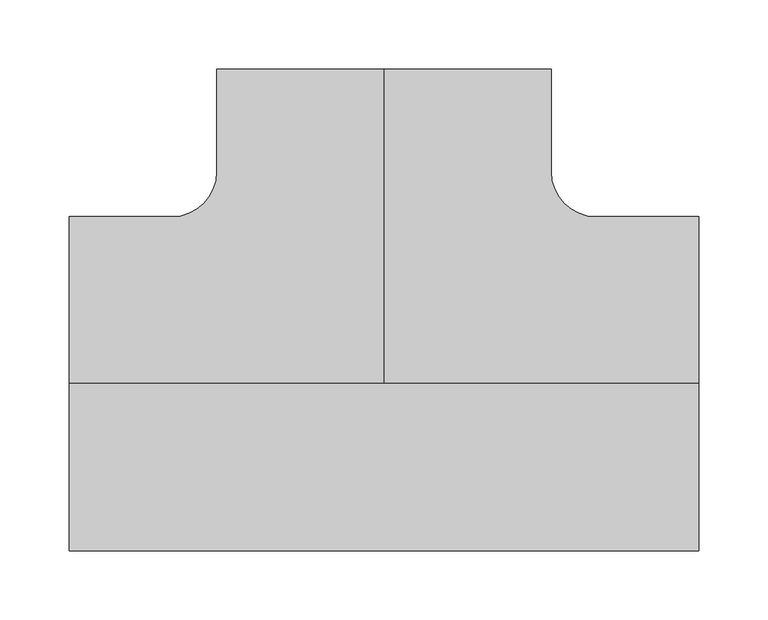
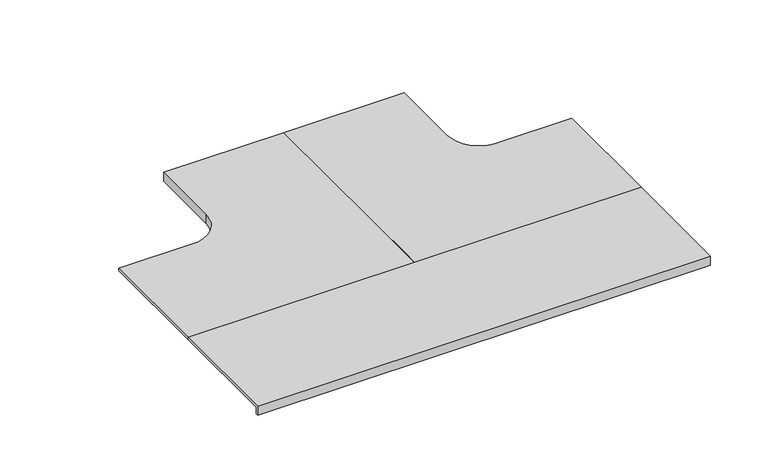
"""IFC4 building model written with IfcOpenShell, lengths in millimetres: cable carrier fitting geometry, CCT_Hyperline_FBTR-TEE-CVR Крышка на ответвитель Т-образный пластиковый : Крышка на ответвитель Т-образный пластиковый."""

import ifcopenshell
import ifcopenshell.guid

model = None  # the IFC model being written
_history = None  # IfcOwnerHistory: only IFC2X3 demands one
_inside = {}  # id of a spatial element -> (the spatial element, [elements in it])
_under = {}  # id of a project, library or spatial element -> (it, [spatial elements below it])
_declared = {}  # id of a project -> (the project, [libraries it declares])
_typed = {}  # id of a type object -> (the type object, [elements of that type])
_made_of = {}  # id of a material, layer set ... -> (it, [elements and type objects made of it])


def new_model(schema):
    """Start an empty IFC model of exactly this schema.

    Asked for "IFC4X3", IfcOpenShell would pick the latest addendum, in which some entities
    have other attributes; the version numbers below select the first issue.
    IFC2X3 requires an IfcOwnerHistory on every rooted entity: one is made here for all.
    """
    global model, _history
    if schema == "IFC4X3":
        model = ifcopenshell.file(schema_version=(4, 3, 0, 0))
    else:
        model = ifcopenshell.file(schema=schema)
    _inside.clear()
    _under.clear()
    _declared.clear()
    _typed.clear()
    _made_of.clear()
    _history = None
    if model.schema == "IFC2X3":
        org = make("IfcOrganization", Name="unknown")
        user = make(
            "IfcPersonAndOrganization",
            ThePerson=make("IfcPerson", FamilyName="unknown"),
            TheOrganization=org,
        )
        app = make(
            "IfcApplication",
            ApplicationDeveloper=org,
            Version="unknown",
            ApplicationFullName="unknown",
            ApplicationIdentifier="unknown",
        )
        _history = make(
            "IfcOwnerHistory",
            OwningUser=user,
            OwningApplication=app,
            ChangeAction="ADDED",
            CreationDate=0,
        )
    return model


def make(cls, **values):
    """One entity of the class cls with the attributes given. An attribute that is None is left unset."""
    return model.create_entity(
        cls, **{name: value for name, value in values.items() if value is not None}
    )


def rooted(cls, **values):
    """An entity with a GlobalId (a new one), such as an element, a storey or a relation."""
    return make(cls, GlobalId=ifcopenshell.guid.new(), OwnerHistory=_history, **values)


def si_unit(unit_type, name, prefix=None):
    """IfcSIUnit, for example si_unit("LENGTHUNIT", "METRE", prefix="MILLI")."""
    return make("IfcSIUnit", UnitType=unit_type, Prefix=prefix, Name=name)


def assignment(units):
    """IfcUnitAssignment: the units of a project."""
    return None if units is None else make("IfcUnitAssignment", Units=units)


def point(xyz):
    """IfcCartesianPoint."""
    return None if xyz is None else make("IfcCartesianPoint", Coordinates=xyz)


def direction(xyz):
    """IfcDirection."""
    return None if xyz is None else make("IfcDirection", DirectionRatios=xyz)


def frame(location, z_axis=None, x_axis=None):
    """IfcAxis2Placement3D, a coordinate frame: its origin and axes. An axis left out is left unset."""
    return make(
        "IfcAxis2Placement3D",
        Location=point(location),
        Axis=direction(z_axis),
        RefDirection=direction(x_axis),
    )


def origin():
    """The frame at (0, 0, 0) with its axes left unset."""
    return frame((0.0, 0.0, 0.0))


def place(relative_to, where):
    """IfcLocalPlacement: puts the frame where relative to a parent placement (None: the world)."""
    return make(
        "IfcLocalPlacement", PlacementRelTo=relative_to, RelativePlacement=where
    )


def context(
    kind, dimensions, precision=None, world=None, true_north=None, identifier=None
):
    """IfcGeometricRepresentationContext, for example the 3D "Model" context."""
    return make(
        "IfcGeometricRepresentationContext",
        ContextIdentifier=identifier,
        ContextType=kind,
        CoordinateSpaceDimension=dimensions,
        Precision=precision,
        WorldCoordinateSystem=world,
        TrueNorth=true_north,
    )


def project(units=None, contexts=None):
    """IfcProject with its units and contexts."""
    return rooted(
        "IfcProject",
        Name="project",
        RepresentationContexts=contexts,
        UnitsInContext=assignment(units),
    )


def spatial(cls, under=None, at=None, **own):
    """A site, building, storey or space (cls), placed at a placement, below another one or the project."""
    s = rooted(cls, ObjectPlacement=at, **own)
    if under is not None:
        _under.setdefault(under.id(), (under, []))[1].append(s)
    return s


def polyline(points):
    """IfcPolyline through the points."""
    return make("IfcPolyline", Points=[point(p) for p in points])


def circle_curve(where, radius):
    """IfcCircle in the frame where."""
    return make("IfcCircle", Position=where, Radius=radius)


def outline(outer, holes=None, kind="AREA"):
    """IfcArbitraryClosedProfileDef: a profile drawn as a closed curve; with holes, ...WithVoids."""
    if holes is None:
        return make("IfcArbitraryClosedProfileDef", ProfileType=kind, OuterCurve=outer)
    return make(
        "IfcArbitraryProfileDefWithVoids",
        ProfileType=kind,
        OuterCurve=outer,
        InnerCurves=holes,
    )


def extrude(swept, where, along, depth):
    """IfcExtrudedAreaSolid: the profile swept, set in the frame where, extruded along a direction by depth."""
    return make(
        "IfcExtrudedAreaSolid",
        SweptArea=swept,
        Position=where,
        ExtrudedDirection=direction(along),
        Depth=depth,
    )


def shape(context_of_items, identifier, shape_type, items):
    """IfcShapeRepresentation: the items that make up one representation, for example the "Body"."""
    return make(
        "IfcShapeRepresentation",
        ContextOfItems=context_of_items,
        RepresentationIdentifier=identifier,
        RepresentationType=shape_type,
        Items=items,
    )


def source(mapping_origin, context_of_items, identifier, shape_type, items):
    """IfcRepresentationMap: a shape defined once, which mapped items show again and again."""
    return make(
        "IfcRepresentationMap",
        MappingOrigin=mapping_origin,
        MappedRepresentation=shape(context_of_items, identifier, shape_type, items),
    )


def transform(
    local_origin,
    x_axis=None,
    y_axis=None,
    z_axis=None,
    scale=None,
    scale2=None,
    scale3=None,
    uniform=True,
):
    """IfcCartesianTransformationOperator3D, or its non-uniform kind. x_axis, y_axis, z_axis: its Axis1, 2, 3."""
    if uniform:
        return make(
            "IfcCartesianTransformationOperator3D",
            Axis1=direction(x_axis),
            Axis2=direction(y_axis),
            LocalOrigin=point(local_origin),
            Scale=scale,
            Axis3=direction(z_axis),
        )
    return make(
        "IfcCartesianTransformationOperator3DnonUniform",
        Axis1=direction(x_axis),
        Axis2=direction(y_axis),
        LocalOrigin=point(local_origin),
        Scale=scale,
        Axis3=direction(z_axis),
        Scale2=scale2,
        Scale3=scale3,
    )


def mapped(mapping_source, mapping_target):
    """IfcMappedItem: shows the shape of a source again, moved by a transform."""
    return make(
        "IfcMappedItem", MappingSource=mapping_source, MappingTarget=mapping_target
    )


def made_of(thing, what):
    """Note that an element or type object is made of a material, layer set ...; save() writes the relation."""
    if what is not None:
        _made_of.setdefault(what.id(), (what, []))[1].append(thing)
    return thing


def element(
    cls,
    number,
    at=None,
    inside=None,
    cuts=None,
    type_object=None,
    material=None,
    context=None,
    identifier="Body",
    shape_type=None,
    held_by="IfcProductDefinitionShape",
    body=None,
    shapes=None,
    **own,
):
    """One element of the class cls, such as IfcWall. Its Tag is "e" and its number.

    at: its placement. inside: the storey or other place that contains it. cuts: it is an
    opening in that element (IfcRelVoidsElement). A single representation is given by context,
    identifier, shape_type and body (its items); several are given by shapes. held_by: the class
    of the entity that holds the representations. save() writes the other relations.
    """
    e = rooted(cls, Tag="e%d" % number, ObjectPlacement=at, **own)
    if body is not None:
        shapes = [shape(context, identifier, shape_type, body)]
    if shapes is not None:
        e.Representation = make(held_by, Representations=shapes)
    if inside is not None:
        _inside.setdefault(inside.id(), (inside, []))[1].append(e)
    if cuts is not None:
        rooted(
            "IfcRelVoidsElement", RelatingBuildingElement=cuts, RelatedOpeningElement=e
        )
    if type_object is not None:
        _typed.setdefault(type_object.id(), (type_object, []))[1].append(e)
    return made_of(e, material)


def aggregate(whole, parts):
    """IfcRelAggregates: a whole, such as a stair, and the parts it consists of."""
    return rooted("IfcRelAggregates", RelatingObject=whole, RelatedObjects=parts)


def save(model, path):
    """Write the relations noted so far, then the file.

    IfcRelAggregates (storeys below a building ...), IfcRelContainedInSpatialStructure (elements
    in a storey), IfcRelDefinesByType, IfcRelAssociatesMaterial and IfcRelDeclares: one each for
    every whole, place, type object, material and project.
    """
    for whole, parts in _under.values():
        aggregate(whole, parts)
    for where, things in _inside.values():
        rooted(
            "IfcRelContainedInSpatialStructure",
            RelatedElements=things,
            RelatingStructure=where,
        )
    for kind, things in _typed.values():
        rooted("IfcRelDefinesByType", RelatedObjects=things, RelatingType=kind)
    for what, things in _made_of.values():
        rooted("IfcRelAssociatesMaterial", RelatedObjects=things, RelatingMaterial=what)
    for by, libraries in _declared.values():
        rooted("IfcRelDeclares", RelatingContext=by, RelatedDefinitions=libraries)
    model.write(path)


def plane_surface(at):
    """IfcPlane: the flat surface through the origin of the frame at, square to its z axis."""
    return make("IfcPlane", Position=at)


def cylinder_surface(at, radius):
    """IfcCylindricalSurface: all points at the distance radius from the z axis of the frame at."""
    return make("IfcCylindricalSurface", Position=at, Radius=radius)


def revolved_surface(curve, axis_point, axis_direction):
    """IfcSurfaceOfRevolution: the curve turned about the line through axis_point along axis_direction."""
    return make(
        "IfcSurfaceOfRevolution",
        SweptCurve=make("IfcArbitraryOpenProfileDef", ProfileType="CURVE", Curve=curve),
        AxisPosition=make("IfcAxis1Placement", Location=point(axis_point), Axis=direction(axis_direction)),
    )


def advanced_brep(points, edges, surfaces, faces):
    """IfcAdvancedBrep: a solid bounded by faces that lie on surfaces and meet in shared edges.

    An edge is (start, end): straight between two places in points (the first is 0);
    or (start, end, curve); or (start, end, curve, False) where it runs against its curve.
    A face is (place in surfaces, loops), or (place, loops, False) where it looks against
    its surface's normal. A loop lists edges by number (the first is 1), with a minus sign
    where the edge is run from its end to its start. The first loop is the outer one.
    """
    corners = [point(p) for p in points]
    vertices = [make("IfcVertexPoint", VertexGeometry=c) for c in corners]
    made = []
    for start, end, *more in edges:
        made.append(
            make(
                "IfcEdgeCurve",
                EdgeStart=vertices[start],
                EdgeEnd=vertices[end],
                EdgeGeometry=more[0] if more else make("IfcPolyline", Points=[corners[start], corners[end]]),
                SameSense=more[1] if len(more) > 1 else True,
            )
        )
    hull = []
    for where, loops, *sense in faces:
        bounds = []
        for j, loop in enumerate(loops):
            ring = [make("IfcOrientedEdge", EdgeElement=made[abs(k) - 1], Orientation=k > 0) for k in loop]
            bounds.append(
                make(
                    "IfcFaceOuterBound" if j == 0 else "IfcFaceBound",
                    Bound=make("IfcEdgeLoop", EdgeList=ring),
                    Orientation=True,
                )
            )
        hull.append(make("IfcAdvancedFace", Bounds=bounds, FaceSurface=surfaces[where], SameSense=sense[0] if sense else True))
    return make("IfcAdvancedBrep", Outer=make("IfcClosedShell", CfsFaces=hull))


def cable_carrier_fitting_9f67b875(model_context):
    return source(origin(), model_context, "Body", "SolidModel", [
        extrude(outline(polyline([(-120.54, 52.54), (0.0, 52.54), (0.0, 50.0), (-118.0, 50.0), (-118.0, 43.0), (-120.54, 43.0), (-120.54, 52.54)])), frame((-227.0, 0.0, 0.0), z_axis=(1.0, 0.0, 0.0), x_axis=(0.0, 1.0, 0.0)), (0.0, 0.0, 1.0), 454.0),
        advanced_brep(
        [(227.0, 120.54, 52.54), (227.0, 0.0, 52.54), (227.0, 0.0, 50.0), (227.0, 120.54, 50.0), (153.0, 118.0, 50.0), (153.0, 118.0, 43.0), (207.0, 118.0, 43.0), (207.0, 118.0, 50.0), (118.0, 153.0, 43.0), (118.0, 227.0, 43.0), (120.54, 227.0, 43.0), (120.54, 153.0, 43.0), (153.0, 120.54, 43.0), (207.0, 120.54, 43.0), (153.0, 120.54, 52.54), (207.0, 120.54, 50.0), (118.0, 153.0, 50.0), (120.54, 153.0, 52.54), (0.0, 227.0, 52.54), (120.54, 227.0, 52.54), (118.0, 227.0, 50.0), (0.0, 227.0, 50.0), (0.0, 0.0, 52.54), (0.0, 0.0, 50.0)],
        [
            (0, 1),
            (1, 2),
            (2, 3),
            (3, 0),
            (4, 5),
            (5, 6),
            (6, 7),
            (7, 4),
            (5, 8, circle_curve(frame((153.0, 153.0, 43.0), z_axis=(0.0, 0.0, -1.0), x_axis=(0.0, -1.0, 0.0)), 35.0)),
            (8, 9),
            (9, 10),
            (10, 11),
            (11, 12, circle_curve(frame((153.0, 153.0, 43.0), z_axis=(0.0, 0.0, 1.0), x_axis=(0.0, -1.0, 0.0)), 32.46)),
            (12, 13),
            (13, 6),
            (14, 0),
            (3, 15),
            (15, 13),
            (12, 14),
            (4, 16, circle_curve(frame((153.0, 153.0, 50.0), z_axis=(0.0, 0.0, -1.0), x_axis=(0.0, -1.0, 0.0)), 35.0)),
            (16, 8),
            (17, 14, circle_curve(frame((153.0, 153.0, 52.54), z_axis=(0.0, 0.0, 1.0), x_axis=(0.0, -1.0, 0.0)), 32.46)),
            (11, 17),
            (18, 19),
            (19, 10),
            (9, 20),
            (20, 21),
            (21, 18),
            (16, 20),
            (19, 17),
            (18, 22),
            (22, 1),
            (22, 23),
            (23, 2),
            (23, 21),
            (7, 15),
        ],
        [
            plane_surface(frame((227.0, 118.0, 25.0), z_axis=(1.0, 0.0, 0.0), x_axis=(0.0, 0.0, 1.0))),
            plane_surface(frame((227.0, 118.0, 50.0), z_axis=(0.0, -1.0, 0.0), x_axis=(-1.0, 0.0, 0.0))),
            plane_surface(frame((227.0, 118.0, 43.0), z_axis=(0.0, 0.0, -1.0), x_axis=(-1.0, 0.0, 0.0))),
            plane_surface(frame((227.0, 120.54, 43.0), z_axis=(0.0, 1.0, 0.0), x_axis=(-1.0, 0.0, 0.0))),
            cylinder_surface(frame((153.0, 153.0, 25.0), z_axis=(0.0, 0.0, -1.0), x_axis=(0.0, -1.0, 0.0)), 35.0),
            revolved_surface(polyline([(153.0, 120.53999999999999, 43.0), (153.0, 120.53999999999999, 52.54)]), (153.0, 153.0, 25.0), (0.0, 0.0, -1.0)),
            plane_surface(frame((118.0, 227.0, 25.0), z_axis=(0.0, 1.0, 0.0), x_axis=(0.0, 0.0, 1.0))),
            plane_surface(frame((118.0, 153.0, 50.0), z_axis=(-1.0, 0.0, 0.0), x_axis=(0.0, 1.0, 0.0))),
            plane_surface(frame((120.54, 153.0, 43.0), z_axis=(1.0, 0.0, 0.0), x_axis=(0.0, 1.0, 0.0))),
            plane_surface(frame((227.0, 120.54, 52.54), z_axis=(0.0, 0.0, 1.0), x_axis=(-1.0, 0.0, 0.0))),
            plane_surface(frame((227.0, 0.0, 52.54), z_axis=(0.0, -1.0, 0.0), x_axis=(-1.0, 0.0, 0.0))),
            plane_surface(frame((227.0, 0.0, 50.0), z_axis=(0.0, 0.0, -1.0), x_axis=(-1.0, 0.0, 0.0))),
            plane_surface(frame((0.0, 153.0, 52.54), z_axis=(-1.0, 0.0, 0.0), x_axis=(0.0, 1.0, 0.0))),
            plane_surface(frame((207.0, 120.54, 43.0), z_axis=(1.0, 0.0, 0.0), x_axis=(0.0, -1.0, 0.0))),
        ],
        [
            (0, [[1, 2, 3, 4]]),
            (1, [[5, 6, 7, 8]]),
            (2, [[9, 10, 11, 12, 13, 14, 15, -6]]),
            (3, [[16, -4, 17, 18, -14, 19]]),
            (4, [[20, 21, -9, -5]]),
            (5, [[22, -19, -13, 23]]),
            (6, [[24, 25, -11, 26, 27, 28]]),
            (7, [[29, -26, -10, -21]]),
            (8, [[30, -23, -12, -25]]),
            (9, [[-1, -16, -22, -30, -24, 31, 32]]),
            (10, [[-2, -32, 33, 34]]),
            (11, [[-34, 35, -27, -29, -20, -8, 36, -17, -3]]),
            (12, [[-31, -28, -35, -33]]),
            (13, [[-36, -7, -15, -18]]),
        ],
    ),
        advanced_brep(
        [(-227.0, 120.54, 52.54), (-227.0, 120.54, 50.0), (-227.0, 0.0, 50.0), (-227.0, 0.0, 52.54), (-153.0, 118.0, 50.0), (-207.0, 118.0, 50.0), (-207.0, 118.0, 43.0), (-153.0, 118.0, 43.0), (-207.0, 120.54, 43.0), (-153.0, 120.54, 43.0), (-120.54, 153.0, 43.0), (-120.54, 227.0, 43.0), (-118.0, 227.0, 43.0), (-118.0, 153.0, 43.0), (-153.0, 120.54, 52.54), (-207.0, 120.54, 50.0), (-118.0, 153.0, 50.0), (-120.54, 153.0, 52.54), (0.0, 227.0, 52.54), (0.0, 227.0, 50.0), (-118.0, 227.0, 50.0), (-120.54, 227.0, 52.54), (0.0, 0.0, 52.54), (0.0, 0.0, 50.0)],
        [
            (0, 1),
            (1, 2),
            (2, 3),
            (3, 0),
            (4, 5),
            (5, 6),
            (6, 7),
            (7, 4),
            (6, 8),
            (8, 9),
            (9, 10, circle_curve(frame((-153.0, 153.0, 43.0), z_axis=(0.0, 0.0, 1.0), x_axis=(0.0, -1.0, 0.0)), 32.46)),
            (10, 11),
            (11, 12),
            (12, 13),
            (13, 7, circle_curve(frame((-153.0, 153.0, 43.0), z_axis=(0.0, 0.0, -1.0), x_axis=(0.0, -1.0, 0.0)), 35.0)),
            (14, 9),
            (8, 15),
            (15, 1),
            (0, 14),
            (13, 16),
            (16, 4, circle_curve(frame((-153.0, 153.0, 50.0), z_axis=(0.0, 0.0, -1.0), x_axis=(0.0, -1.0, 0.0)), 35.0)),
            (17, 10),
            (14, 17, circle_curve(frame((-153.0, 153.0, 52.54), z_axis=(0.0, 0.0, 1.0), x_axis=(0.0, -1.0, 0.0)), 32.46)),
            (18, 19),
            (19, 20),
            (20, 12),
            (11, 21),
            (21, 18),
            (20, 16),
            (17, 21),
            (3, 22),
            (22, 18),
            (2, 23),
            (23, 22),
            (15, 5),
            (19, 23),
        ],
        [
            plane_surface(frame((-227.0, 118.0, 25.0), z_axis=(-1.0, 0.0, 0.0), x_axis=(0.0, 0.0, 1.0))),
            plane_surface(frame((-227.0, 118.0, 50.0), z_axis=(0.0, -1.0, 0.0), x_axis=(1.0, 0.0, 0.0))),
            plane_surface(frame((-227.0, 118.0, 43.0), z_axis=(0.0, 0.0, -1.0), x_axis=(1.0, 0.0, 0.0))),
            plane_surface(frame((-227.0, 120.54, 43.0), z_axis=(0.0, 1.0, 0.0), x_axis=(1.0, 0.0, 0.0))),
            cylinder_surface(frame((-153.0, 153.0, 25.0), z_axis=(0.0, 0.0, -1.0), x_axis=(0.0, -1.0, 0.0)), 35.0),
            revolved_surface(polyline([(-153.0, 120.53999999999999, 43.0), (-153.0, 120.53999999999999, 52.54)]), (-153.0, 153.0, 25.0), (0.0, 0.0, -1.0)),
            plane_surface(frame((-118.0, 227.0, 25.0), z_axis=(0.0, 1.0, 0.0), x_axis=(0.0, 0.0, 1.0))),
            plane_surface(frame((-118.0, 153.0, 50.0), z_axis=(1.0, 0.0, 0.0), x_axis=(0.0, 1.0, 0.0))),
            plane_surface(frame((-120.54, 153.0, 43.0), z_axis=(-1.0, 0.0, 0.0), x_axis=(0.0, 1.0, 0.0))),
            plane_surface(frame((-227.0, 120.54, 52.54), z_axis=(0.0, 0.0, 1.0), x_axis=(1.0, 0.0, 0.0))),
            plane_surface(frame((-227.0, 0.0, 52.54), z_axis=(0.0, -1.0, 0.0), x_axis=(1.0, 0.0, 0.0))),
            plane_surface(frame((-227.0, 0.0, 50.0), z_axis=(0.0, 0.0, -1.0), x_axis=(1.0, 0.0, 0.0))),
            plane_surface(frame((0.0, 153.0, 52.54), z_axis=(1.0, 0.0, 0.0), x_axis=(0.0, 1.0, 0.0))),
            plane_surface(frame((-207.0, 120.54, 43.0), z_axis=(-1.0, 0.0, 0.0), x_axis=(0.0, -1.0, 0.0))),
        ],
        [
            (0, [[1, 2, 3, 4]]),
            (1, [[5, 6, 7, 8]]),
            (2, [[-7, 9, 10, 11, 12, 13, 14, 15]]),
            (3, [[16, -10, 17, 18, -1, 19]]),
            (4, [[-8, -15, 20, 21]]),
            (5, [[22, -11, -16, 23]]),
            (6, [[24, 25, 26, -13, 27, 28]]),
            (7, [[-20, -14, -26, 29]]),
            (8, [[-27, -12, -22, 30]]),
            (9, [[31, 32, -28, -30, -23, -19, -4]]),
            (10, [[33, 34, -31, -3]]),
            (11, [[-2, -18, 35, -5, -21, -29, -25, 36, -33]]),
            (12, [[-34, -36, -24, -32]]),
            (13, [[-17, -9, -6, -35]]),
        ],
    ),
    ])


if __name__ == "__main__":
    model = new_model("IFC4")
    model_context = context("Model", 3, world=origin())
    ifc_project = project(units=[si_unit("LENGTHUNIT", "METRE", prefix="MILLI")], contexts=[model_context])
    site = spatial("IfcSite", under=ifc_project)
    building = spatial("IfcBuilding", under=site)
    placement = place(None, origin())
    cable_carrier_fitting_shape = cable_carrier_fitting_9f67b875(model_context)
    element("IfcCableCarrierFitting", 1, ObjectType="CCT_Hyperline_FBTR-TEE-CVR Крышка на ответвитель Т-образный пластиковый : Крышка на ответвитель Т-образный пластиковый", at=placement, inside=building, context=model_context, shape_type="MappedRepresentation", body=[
        mapped(cable_carrier_fitting_shape, transform((0.0, 0.0, 0.0), x_axis=(1.0, 0.0, 0.0), y_axis=(0.0, 1.0, 0.0), z_axis=(0.0, 0.0, 1.0))),
    ])
    save(model, "model.ifc")
